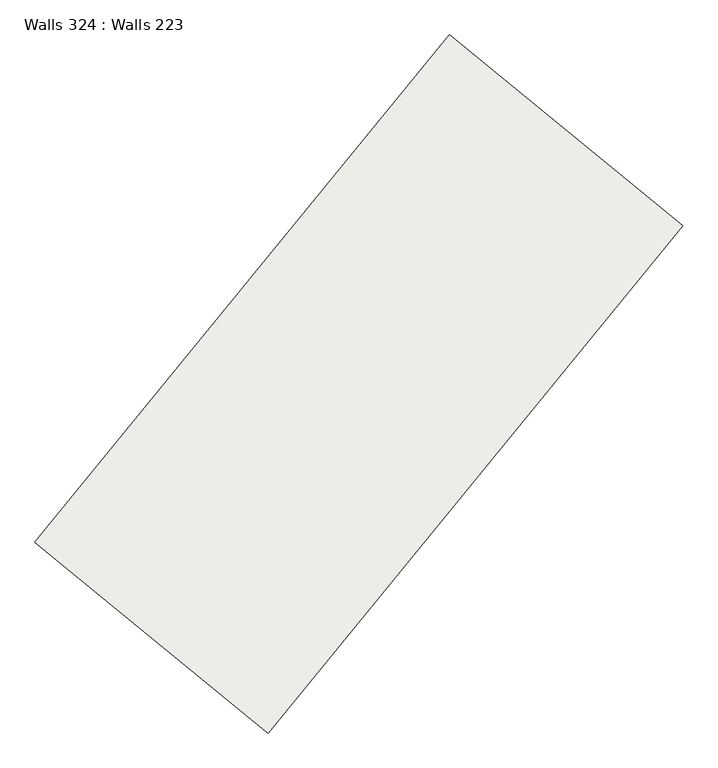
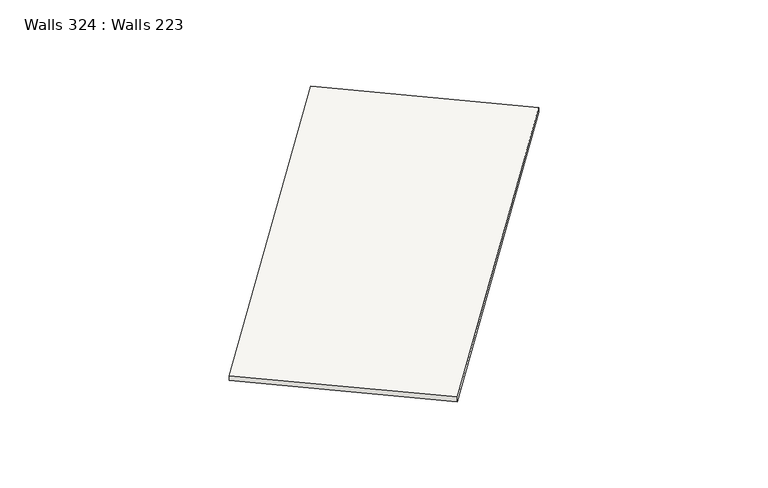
"""IFC4 building model written with IfcOpenShell, lengths in millimetres: slab geometry, Walls 324 : Walls 223."""

from ifc_helpers import new_model, si_unit, frame, origin, place, context, project, spatial, polyline, outline, extrude, source, transform, mapped, element, save


def walls_324_walls_223_d79a69c5(model_context):
    return source(origin(), model_context, "Body", "SweptSolid", [
        extrude(outline(polyline([(-50.0, 0.0), (50.0, 0.0), (-62.0, -8700.0000007), (-162.0, -8700.0000007), (-50.0, 0.0)])), frame((402208.0708236, 270403.7184192, 644976.0), z_axis=(-0.7739621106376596, 0.6332319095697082, 0.0), x_axis=(0.0, 0.0, 1.0)), (0.0, 0.0, 1.0), 4000.0),
    ])


if __name__ == "__main__":
    model = new_model("IFC4")
    model_context = context("Model", 3, world=origin())
    ifc_project = project(units=[si_unit("LENGTHUNIT", "METRE", prefix="MILLI")], contexts=[model_context])
    site = spatial("IfcSite", under=ifc_project)
    building = spatial("IfcBuilding", under=site)
    placement = place(None, origin())
    walls_324_walls_223_shape = walls_324_walls_223_d79a69c5(model_context)
    element("IfcSlab", 1, ObjectType="Walls 324 : Walls 223", at=placement, inside=building, context=model_context, shape_type="MappedRepresentation", body=[
        mapped(walls_324_walls_223_shape, transform((0.0, 0.0, 0.0), x_axis=(1.0, 0.0, 0.0), y_axis=(0.0, 1.0, 0.0), z_axis=(0.0, 0.0, 1.0))),
    ])
    save(model, "model.ifc")
